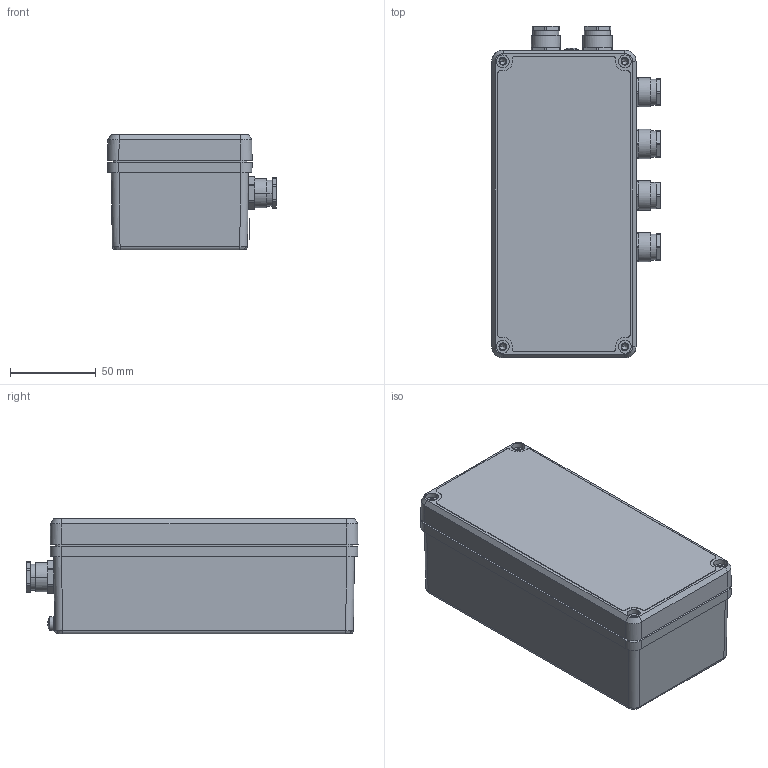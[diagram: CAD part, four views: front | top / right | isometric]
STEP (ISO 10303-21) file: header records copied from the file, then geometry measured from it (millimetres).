
FILE_DESCRIPTION((''),'2;1');
FILE_NAME('1_AED9401A_SW0001','2022-10-19T',('JEBLICK'),(''),'CREO PARAMETRIC BY PTC INC, 2018220','CREO PARAMETRIC BY PTC INC, 2018220','');
FILE_SCHEMA(('CONFIG_CONTROL_DESIGN'));
Length unit declared in the file: millimetre
Products named in the file (1): 1_AED9401A_SW0001
Bounding box: 98.1 x 193.08 x 67.4 mm (x, y, z)
Volume: 282335.3 mm3; surface area: 143939.1 mm2
Topology: 2 solids, 2 shells, 759 faces, 1966 edges, 1264 vertices
Faces by surface type: bspline 759
Entity records: 33531 total; most frequent: CARTESIAN_POINT 13668, ORIENTED_EDGE 3900, DIRECTION 2482, EDGE_CURVE 1950, VERTEX_POINT 1264, VECTOR 1058, LINE 1058, EDGE_LOOP 854
